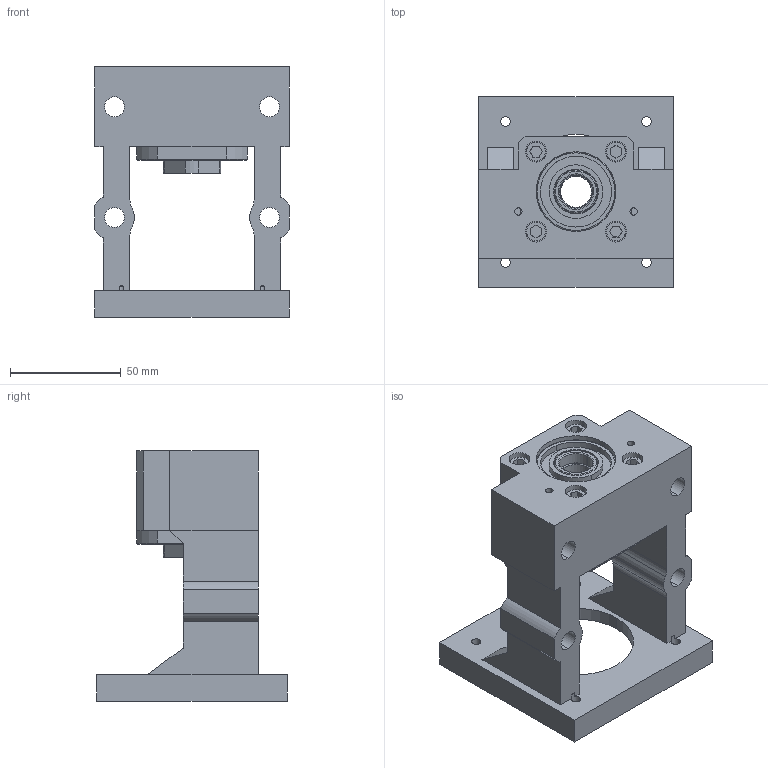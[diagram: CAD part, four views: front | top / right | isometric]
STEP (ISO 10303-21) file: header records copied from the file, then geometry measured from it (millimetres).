
FILE_DESCRIPTION (( 'STEP AP203' ), '1' );
FILE_NAME ('MBCA15-EP.STEP', '2018-10-24T07:43:35', ( '' ), ( '' ), 'SwSTEP 2.0', 'SolidWorks 2018', '' );
FILE_SCHEMA (( 'CONFIG_CONTROL_DESIGN' ));
Length unit declared in the file: millimetre
Products named in the file (1): MBCA15-EP
Bounding box: 88 x 86 x 113 mm (x, y, z)
Surface area: 61232.1 mm2 (no closed solid volume)
Topology: 0 solids, 13 shells, 220 faces, 589 edges, 388 vertices
Faces by surface type: cylinder 96, plane 94, cone 16, torus 14
Entity records: 7273 total; most frequent: CARTESIAN_POINT 1478, DIRECTION 1267, ORIENTED_EDGE 1089, EDGE_CURVE 589, AXIS2_PLACEMENT_3D 477, VERTEX_POINT 388, LINE 313, VECTOR 313
